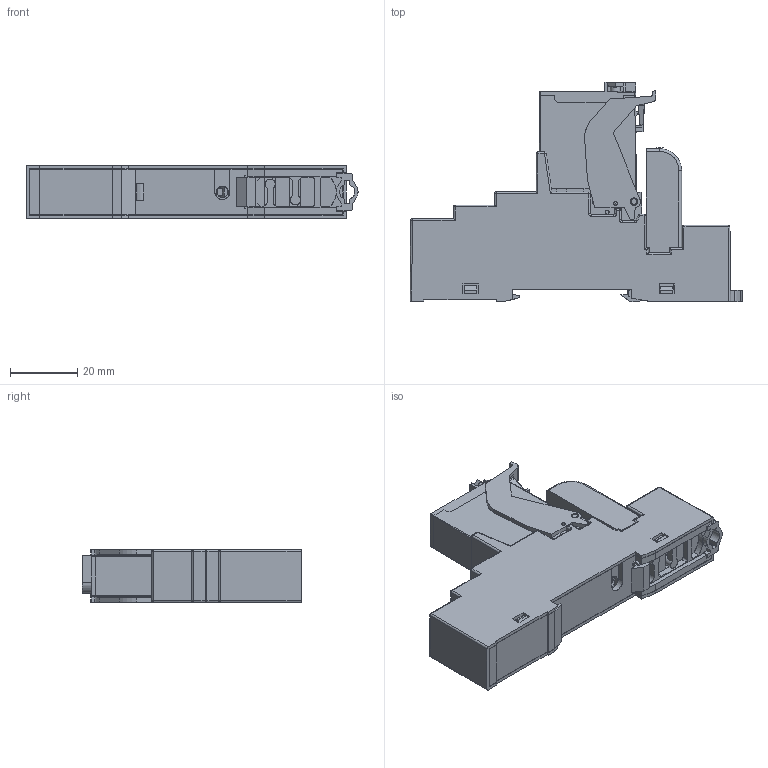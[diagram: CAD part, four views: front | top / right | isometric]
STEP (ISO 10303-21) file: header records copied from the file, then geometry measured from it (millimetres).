
FILE_DESCRIPTION(('STEP AP214'),'2;1');
FILE_NAME('4C52.stp','2013-07-05T14:10:10',(''),(''),'2007.1.106','THINKDESIGN','');
FILE_SCHEMA(('AUTOMOTIVE_DESIGN'));
Length unit declared in the file: millimetre
Products named in the file (1): top
Bounding box: 99 x 65.5 x 15.8 mm (x, y, z)
Surface area: 32355 mm2 (no closed solid volume)
Topology: 0 solids, 0 shells, 1351 faces, 7544 edges, 7492 vertices
Faces by surface type: plane 956, cylinder 267, bspline 128
Full cylindrical faces by diameter (mm): 1.2 x6, 1.3 x8, 2 x2, 2.2 x2, 3 x5
Entity records: 67969 total; most frequent: CARTESIAN_POINT 24091, DIRECTION 9458, COMPOSITE_CURVE_SEGMENT 7512, TRIMMED_CURVE 6504, VECTOR 6064, LINE 6064, AXIS2_PLACEMENT_3D 1697, OUTER_BOUNDARY_CURVE 1351
